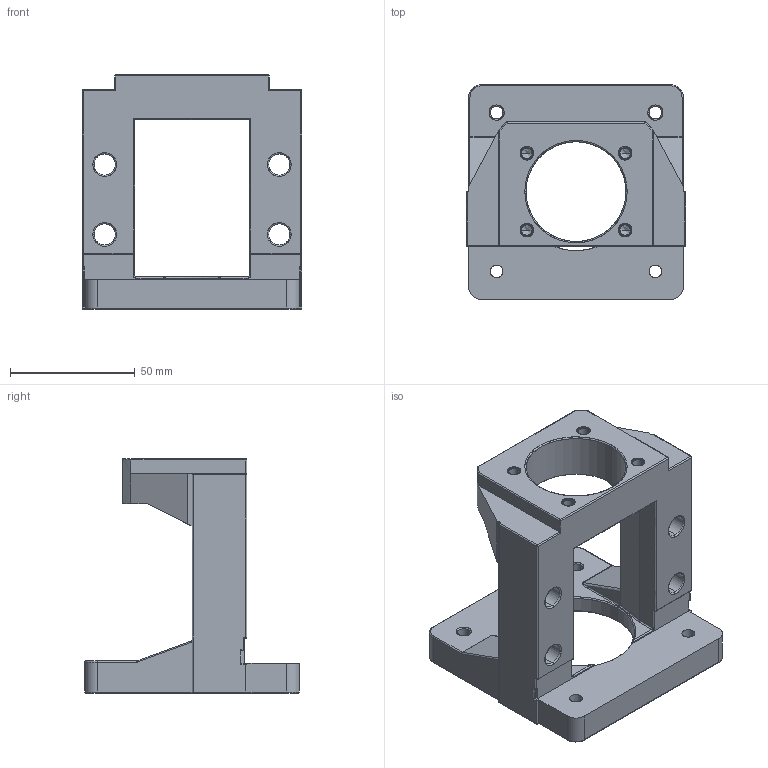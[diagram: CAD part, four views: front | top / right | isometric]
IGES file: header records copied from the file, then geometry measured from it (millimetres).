
Start section: SolidWorks IGES file using analytic representation for surfaces
Bounding box: 88 x 86 x 94 mm (x, y, z)
Surface area: 41987.9 mm2 (no closed solid volume)
Topology: 0 solids, 0 shells, 252 faces, 2766 edges, 2746 vertices
Faces by surface type: revolution 145, bspline 107
